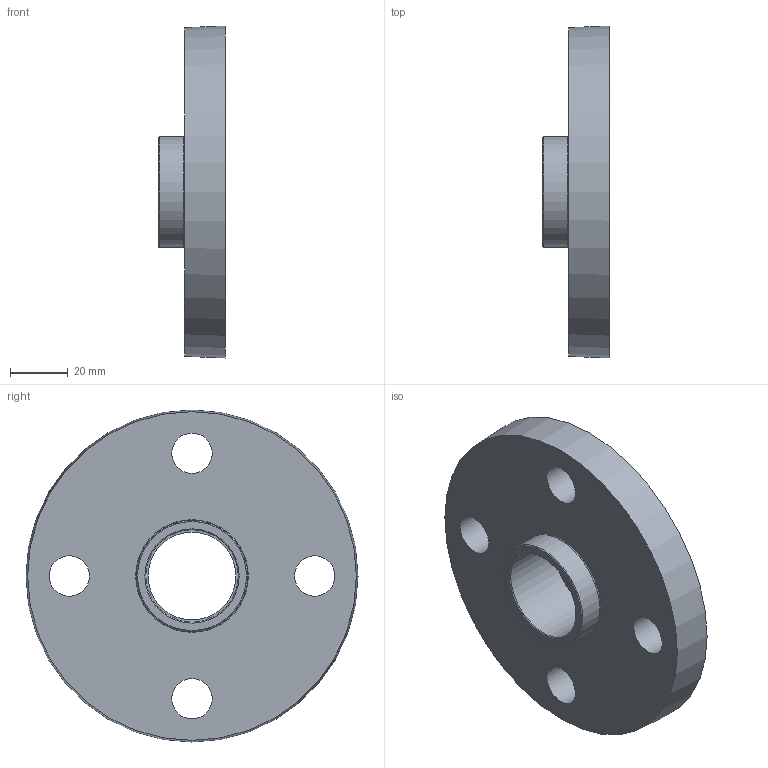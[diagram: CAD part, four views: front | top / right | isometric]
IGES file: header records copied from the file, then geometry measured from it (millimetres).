
Global section: file name: 059100032.ipt; native system: Autodesk Inventor 2015; preprocessor: unknown; author: KIM; date: 20171207.165955; units: millimetre
Bounding box: 23 x 115 x 115 mm (x, y, z)
Volume: 127302.4 mm3; surface area: 28868.8 mm2
Topology: 1 solids, 1 shells, 28 faces, 62 edges, 44 vertices
Faces by surface type: revolution 13, plane 10, cylinder 4, cone 1
Full cylindrical faces by diameter (mm): 32.19 x1, 34.49 x1, 36.79 x1, 38.4 x1
